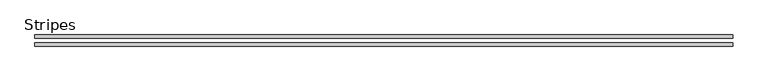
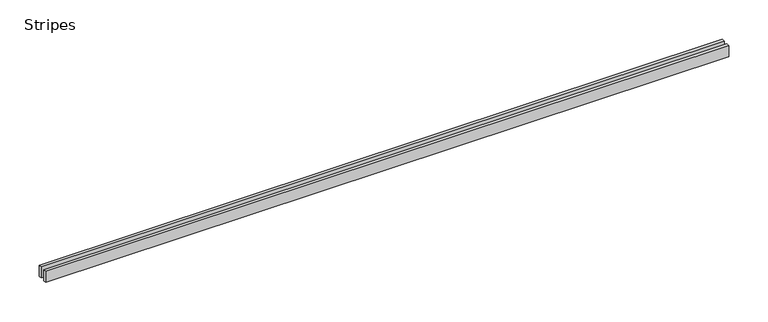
"""IFC4 building model written with IfcOpenShell, lengths in millimetres: sanitary terminal geometry, ZZZ_do not use_PF_ST_UN_grating for ShowerDrain S_ACO : Stripes."""

from ifc_helpers import new_model, si_unit, frame, origin, place, context, project, spatial, polyline, outline, extrude, source, transform, mapped, element, save


def stripes_00212afd(model_context):
    return source(origin(), model_context, "Body", "SweptSolid", [
        extrude(outline(polyline([(500.0, 8.0), (500.0, 3.5), (-500.0, 3.5), (-500.0, 8.0), (500.0, 8.0)])), frame((0.0, 0.0, -17.0), z_axis=(0.0, 0.0, 1.0), x_axis=(1.0, 0.0, 0.0)), (0.0, 0.0, 1.0), 17.0),
        extrude(outline(polyline([(500.0, -3.5), (500.0, -8.0), (-500.0, -8.0), (-500.0, -3.5), (500.0, -3.5)])), frame((0.0, 0.0, -17.0), z_axis=(0.0, 0.0, 1.0), x_axis=(1.0, 0.0, 0.0)), (0.0, 0.0, 1.0), 17.0),
    ])


if __name__ == "__main__":
    model = new_model("IFC4")
    model_context = context("Model", 3, world=origin())
    ifc_project = project(units=[si_unit("LENGTHUNIT", "METRE", prefix="MILLI")], contexts=[model_context])
    site = spatial("IfcSite", under=ifc_project)
    building = spatial("IfcBuilding", under=site)
    placement = place(None, origin())
    stripes_shape = stripes_00212afd(model_context)
    element("IfcSanitaryTerminal", 1, ObjectType="ZZZ_do not use_PF_ST_UN_grating for ShowerDrain S_ACO : Stripes", at=placement, inside=building, context=model_context, shape_type="MappedRepresentation", body=[
        mapped(stripes_shape, transform((0.0, 0.0, 0.0), x_axis=(1.0, 0.0, 0.0), y_axis=(0.0, 1.0, 0.0), z_axis=(0.0, 0.0, 1.0))),
    ])
    save(model, "model.ifc")
